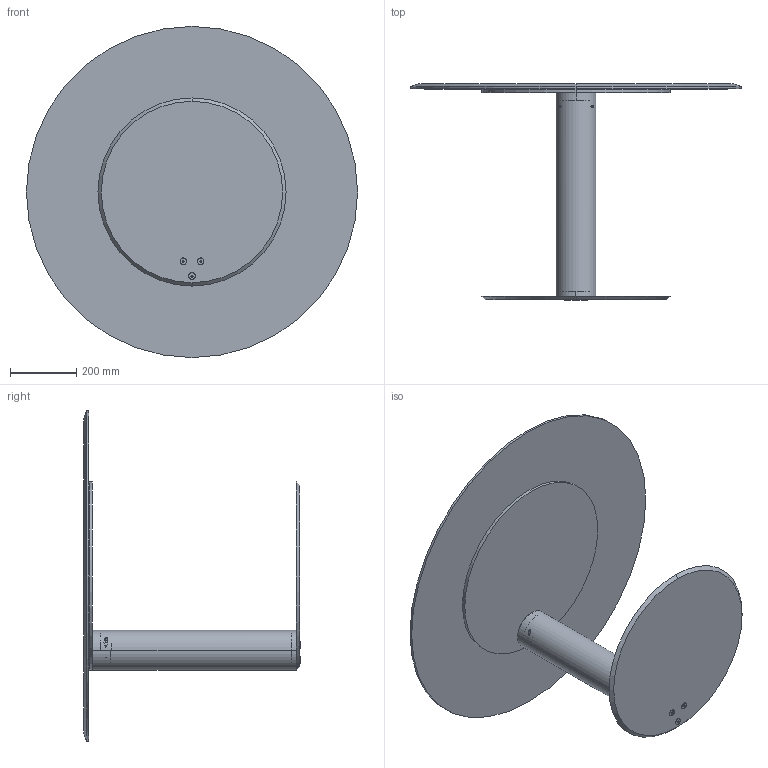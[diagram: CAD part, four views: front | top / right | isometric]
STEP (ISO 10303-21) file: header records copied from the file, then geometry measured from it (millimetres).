
FILE_DESCRIPTION (( 'STEP AP214' ), '1' );
FILE_NAME ('Ø100_LOUNGE.STEP', '2026-04-02T06:50:05', ( '' ), ( '' ), 'SwSTEP 2.0', 'SolidWorks 2025', '' );
FILE_SCHEMA (( 'AUTOMOTIVE_DESIGN' ));
Length unit declared in the file: millimetre
Products named in the file (12): OTO_anello fissaggio piastra sup; OTO_colonna interna Ø80_colonna interna_LOUNGE; socket head cap screw_am_B18.3.1M - 8 x 1.25 x 16 Hex SHCS -- 16NHX; OTO_colonnaØ120_colonna LOUNGE; socket countersunk head screw_am_B18.3.5M - 10 x 1.5 x 40 Socket FCHS  -- 40N; OTO_anello piastra sup; OTO_piastra superiore_Ø568mm; Ø100_LOUNGE; OTO_piastra inferiore svasata_Ø568mm; socket countersunk head screw_am_B18.3.5M - 8 x 1.25 x 25 Socket FCHS  -- 25C; piano_Ø100; OTO_blocchetto FE da saldare
Assembly tree (17 placements, depth 2):
  Ø100_LOUNGE
    OTO_colonna interna Ø80_colonna interna_LOUNGE
    OTO_blocchetto FE da saldare
    OTO_colonnaØ120_colonna LOUNGE
    OTO_anello fissaggio piastra sup
    OTO_anello piastra sup
    OTO_piastra inferiore svasata_Ø568mm
    OTO_piastra superiore_Ø568mm
    socket countersunk head screw_am_B18.3.5M - 8 x 1.25 x 25 Socket FCHS  -- 25C  x4
    piano_Ø100
    socket countersunk head screw_am_B18.3.5M - 10 x 1.5 x 40 Socket FCHS  -- 40N  x3
    socket head cap screw_am_B18.3.1M - 8 x 1.25 x 16 Hex SHCS -- 16NHX  x2
Bounding box: 1000 x 653.2 x 1000 mm (x, y, z)
Volume: 17913987.2 mm3; surface area: 3493032 mm2
Topology: 17 solids, 17 shells, 374 faces, 823 edges, 473 vertices
Faces by surface type: plane 152, cylinder 102, cone 102, torus 18
Entity records: 6856 total; most frequent: CARTESIAN_POINT 1481, DIRECTION 1157, ORIENTED_EDGE 938, EDGE_CURVE 469, AXIS2_PLACEMENT_3D 463, VERTEX_POINT 285, EDGE_LOOP 264, VECTOR 231
